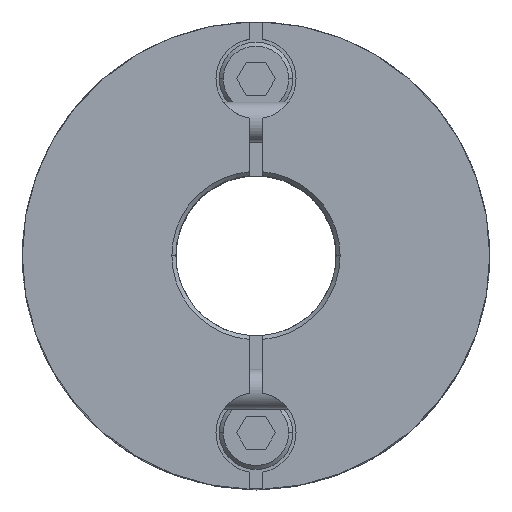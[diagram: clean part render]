
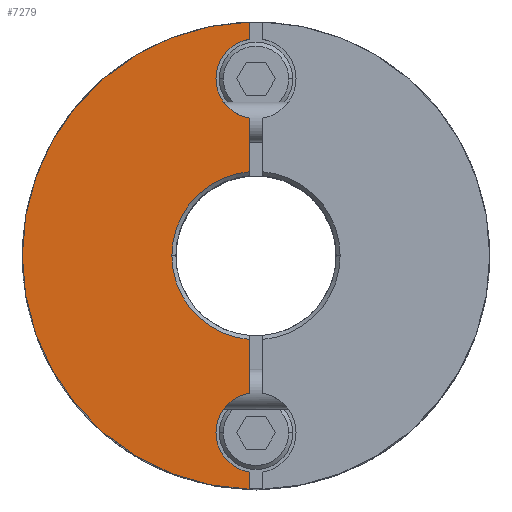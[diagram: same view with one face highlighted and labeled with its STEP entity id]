
A CAD part, top view. The second image highlights one B-rep face of the part: STEP entity #7279.
In plain terms, the highlighted planar face has unit normal (0, 0, 1).
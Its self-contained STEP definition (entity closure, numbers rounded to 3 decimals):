
#751=CARTESIAN_POINT('',(-6.3,0.,13.5));
#752=VERTEX_POINT('',#751);
#759=CARTESIAN_POINT('',(-0.5,-6.28,13.5));
#760=VERTEX_POINT('',#759);
#761=CARTESIAN_POINT('',(0.0,0.,13.5));
#762=DIRECTION('',(0.0,0.0,1.0));
#763=DIRECTION('',(1.0,0.0,0.0));
#764=AXIS2_PLACEMENT_3D('',#761,#762,#763);
#765=CIRCLE('',#764,6.3);
#766=EDGE_CURVE('',#752,#760,#765,.T.);
#831=CARTESIAN_POINT('',(-17.5,0.,13.5));
#832=VERTEX_POINT('',#831);
#916=CARTESIAN_POINT('',(-0.5,-17.493,13.5));
#917=VERTEX_POINT('',#916);
#924=CARTESIAN_POINT('',(0.0,0.,13.5));
#925=DIRECTION('',(0.0,0.0,-1.0));
#926=DIRECTION('',(-1.0,0.0,0.0));
#927=AXIS2_PLACEMENT_3D('',#924,#925,#926);
#928=CIRCLE('',#927,17.5);
#929=EDGE_CURVE('',#917,#832,#928,.T.);
#1353=CARTESIAN_POINT('',(-3.,-13.25,13.5));
#1354=VERTEX_POINT('',#1353);
#1363=CARTESIAN_POINT('',(-0.5,-16.208,13.5));
#1364=VERTEX_POINT('',#1363);
#1365=CARTESIAN_POINT('',(0.,-13.25,13.5));
#1366=DIRECTION('',(0.0,0.0,-1.0));
#1367=DIRECTION('',(-1.0,0.0,0.0));
#1368=AXIS2_PLACEMENT_3D('',#1365,#1366,#1367);
#1369=CIRCLE('',#1368,3.0);
#1370=EDGE_CURVE('',#1364,#1354,#1369,.T.);
#1585=CARTESIAN_POINT('',(-3.,13.25,13.5));
#1586=VERTEX_POINT('',#1585);
#1595=CARTESIAN_POINT('',(-0.5,10.292,13.5));
#1596=VERTEX_POINT('',#1595);
#1597=CARTESIAN_POINT('',(0.,13.25,13.5));
#1598=DIRECTION('',(0.0,0.0,-1.0));
#1599=DIRECTION('',(-1.0,0.0,0.0));
#1600=AXIS2_PLACEMENT_3D('',#1597,#1598,#1599);
#1601=CIRCLE('',#1600,3.0);
#1602=EDGE_CURVE('',#1596,#1586,#1601,.T.);
#5986=CARTESIAN_POINT('',(-0.5,16.208,13.5));
#5987=VERTEX_POINT('',#5986);
#5994=CARTESIAN_POINT('',(0.,13.25,13.5));
#5995=DIRECTION('',(0.0,0.0,-1.0));
#5996=DIRECTION('',(-1.0,0.0,0.0));
#5997=AXIS2_PLACEMENT_3D('',#5994,#5995,#5996);
#5998=CIRCLE('',#5997,3.0);
#5999=EDGE_CURVE('',#1586,#5987,#5998,.T.);
#6401=CARTESIAN_POINT('',(-0.5,-10.292,13.5));
#6402=VERTEX_POINT('',#6401);
#6409=CARTESIAN_POINT('',(0.,-13.25,13.5));
#6410=DIRECTION('',(0.0,0.0,-1.0));
#6411=DIRECTION('',(-1.0,0.0,0.0));
#6412=AXIS2_PLACEMENT_3D('',#6409,#6410,#6411);
#6413=CIRCLE('',#6412,3.0);
#6414=EDGE_CURVE('',#1354,#6402,#6413,.T.);
#6563=CARTESIAN_POINT('',(-0.5,6.28,13.5));
#6564=VERTEX_POINT('',#6563);
#6565=CARTESIAN_POINT('',(-0.5,6.28,13.5));
#6566=DIRECTION('',(0.0,1.0,0.0));
#6567=VECTOR('',#6566,4.012);
#6568=LINE('',#6565,#6567);
#6569=EDGE_CURVE('',#6564,#1596,#6568,.T.);
#6620=CARTESIAN_POINT('',(-0.5,-10.292,13.5));
#6621=DIRECTION('',(0.0,1.0,0.0));
#6622=VECTOR('',#6621,4.012);
#6623=LINE('',#6620,#6622);
#6624=EDGE_CURVE('',#6402,#760,#6623,.T.);
#7225=CARTESIAN_POINT('',(-0.5,-17.493,13.5));
#7226=DIRECTION('',(0.0,1.0,0.0));
#7227=VECTOR('',#7226,1.285);
#7228=LINE('',#7225,#7227);
#7229=EDGE_CURVE('',#917,#1364,#7228,.T.);
#7241=CARTESIAN_POINT('',(-1.591,0.,13.5));
#7242=DIRECTION('',(0.0,0.0,1.0));
#7243=DIRECTION('',(-1.0,0.0,0.0));
#7244=AXIS2_PLACEMENT_3D('',#7241,#7242,#7243);
#7245=PLANE('',#7244);
#7246=ORIENTED_EDGE('',*,*,#1370,.T.);
#7247=ORIENTED_EDGE('',*,*,#6414,.T.);
#7248=ORIENTED_EDGE('',*,*,#6624,.T.);
#7249=ORIENTED_EDGE('',*,*,#766,.F.);
#7250=CARTESIAN_POINT('',(0.0,0.,13.5));
#7251=DIRECTION('',(0.0,0.0,1.0));
#7252=DIRECTION('',(1.0,0.0,0.0));
#7253=AXIS2_PLACEMENT_3D('',#7250,#7251,#7252);
#7254=CIRCLE('',#7253,6.3);
#7255=EDGE_CURVE('',#6564,#752,#7254,.T.);
#7256=ORIENTED_EDGE('',*,*,#7255,.F.);
#7257=ORIENTED_EDGE('',*,*,#6569,.T.);
#7258=ORIENTED_EDGE('',*,*,#1602,.T.);
#7259=ORIENTED_EDGE('',*,*,#5999,.T.);
#7260=CARTESIAN_POINT('',(-0.5,17.493,13.5));
#7261=VERTEX_POINT('',#7260);
#7262=CARTESIAN_POINT('',(-0.5,16.208,13.5));
#7263=DIRECTION('',(0.0,1.0,0.0));
#7264=VECTOR('',#7263,1.285);
#7265=LINE('',#7262,#7264);
#7266=EDGE_CURVE('',#5987,#7261,#7265,.T.);
#7267=ORIENTED_EDGE('',*,*,#7266,.T.);
#7268=CARTESIAN_POINT('',(0.0,0.,13.5));
#7269=DIRECTION('',(0.0,0.0,-1.0));
#7270=DIRECTION('',(-1.0,0.0,0.0));
#7271=AXIS2_PLACEMENT_3D('',#7268,#7269,#7270);
#7272=CIRCLE('',#7271,17.5);
#7273=EDGE_CURVE('',#832,#7261,#7272,.T.);
#7274=ORIENTED_EDGE('',*,*,#7273,.F.);
#7275=ORIENTED_EDGE('',*,*,#929,.F.);
#7276=ORIENTED_EDGE('',*,*,#7229,.T.);
#7277=EDGE_LOOP('',(#7246,#7247,#7248,#7249,#7256,#7257,#7258,#7259,#7267,#7274,#7275,#7276));
#7278=FACE_OUTER_BOUND('',#7277,.T.);
#7279=ADVANCED_FACE('',(#7278),#7245,.T.);
